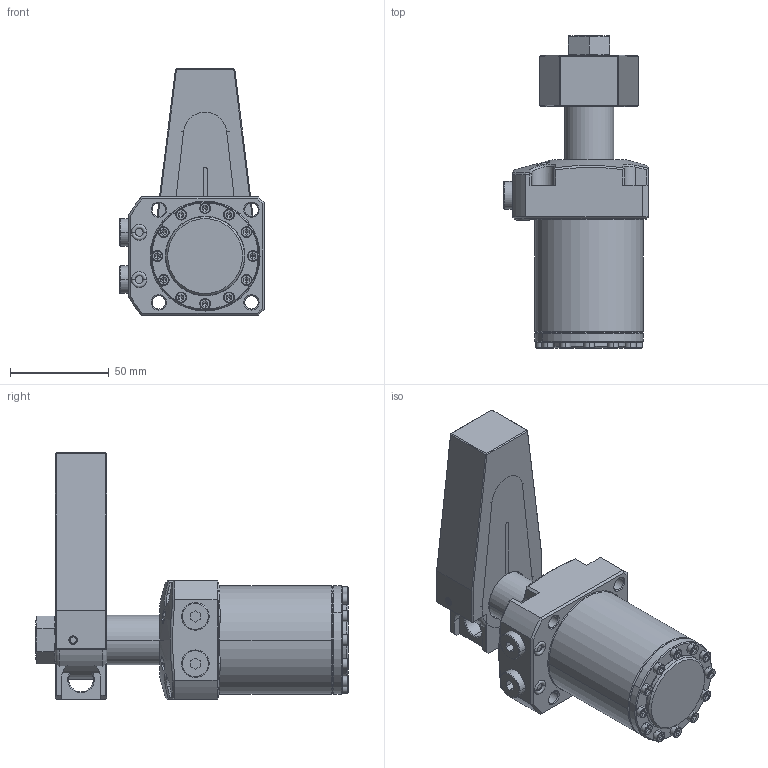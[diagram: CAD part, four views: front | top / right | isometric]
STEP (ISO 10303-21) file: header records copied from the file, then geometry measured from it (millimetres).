
FILE_DESCRIPTION((''),'2;1');
FILE_NAME('SIMP_GENERIC_SWING_CYD_55_ASM','2023-04-30T10:53:34',('Design 2'),(''),'CREO PARAMETRIC BY PTC INC, 2020053','CREO PARAMETRIC BY PTC INC, 2020053','');
FILE_SCHEMA(('CONFIG_CONTROL_DESIGN'));
Length unit declared in the file: millimetre
Products named in the file (16): BODY__; BODY_TOP_FLG___ASM; PISTON__; PISTON_ASM___ASM; SWINGER_ARM__; SWINGER_ARM_ASM___ASM; CLAMP__; HEXAGON_NUT__; CLAMP_2ND_TYPE__; 1__; 2__; HALDER_SEALING-PLUG-228800_ASM; STATIC-O-RING-8X2S; ISHCS03X10; G-1-8-CLOSE_PLUGE; SIMP_GENERIC_SWING_CYD_55_ASM
Assembly tree (29 placements, depth 3):
  SIMP_GENERIC_SWING_CYD_55_ASM
    BODY_TOP_FLG___ASM
      BODY__
    PISTON_ASM___ASM
      PISTON__
    SWINGER_ARM_ASM___ASM
      SWINGER_ARM__
    CLAMP__
    HEXAGON_NUT__
    CLAMP_2ND_TYPE__
    HALDER_SEALING-PLUG-228800_ASM  x2
      1__
      2__
    STATIC-O-RING-8X2S  x2
    ISHCS03X10  x12
    G-1-8-CLOSE_PLUGE  x2
Bounding box: 73.3 x 158.6 x 125 mm (x, y, z)
Volume: 440272.9 mm3; surface area: 93093.2 mm2
Topology: 26 solids, 26 shells, 1084 faces, 2504 edges, 1483 vertices
Faces by surface type: cylinder 345, plane 333, cone 270, bspline 78, torus 52, sphere 6
Entity records: 32453 total; most frequent: CARTESIAN_POINT 17076, ORIENTED_EDGE 3228, DIRECTION 2929, EDGE_CURVE 1614, AXIS2_PLACEMENT_3D 1100, VERTEX_POINT 993, EDGE_LOOP 745, VECTOR 729
